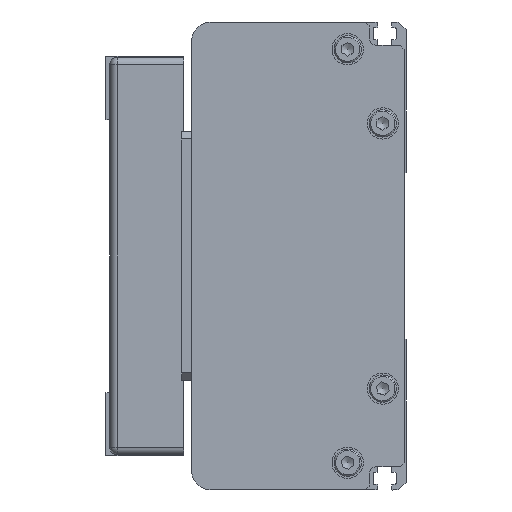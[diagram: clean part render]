
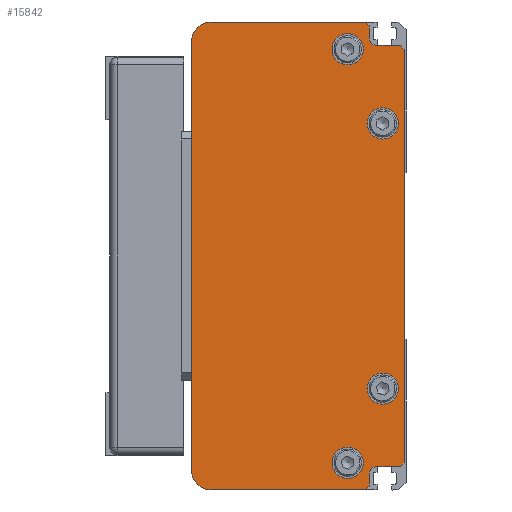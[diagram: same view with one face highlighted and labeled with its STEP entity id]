
A CAD part, left-side view. The second image highlights one B-rep face of the part: STEP entity #15842.
In plain terms, the highlighted planar face has unit normal (-1, 0, 0) as drawn and (0, 0, -1) by its records, which use the part's own axes.
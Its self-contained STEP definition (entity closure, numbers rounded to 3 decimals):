
#828=FACE_BOUND('',#2607,.T.);
#829=FACE_BOUND('',#2608,.T.);
#830=FACE_BOUND('',#2609,.T.);
#831=FACE_BOUND('',#2610,.T.);
#1144=CIRCLE('',#16974,5.);
#1145=CIRCLE('',#16976,5.);
#1146=CIRCLE('',#16977,2.);
#1147=CIRCLE('',#16978,2.);
#1148=CIRCLE('',#16979,4.);
#1149=CIRCLE('',#16980,4.);
#1150=CIRCLE('',#16981,4.);
#1151=CIRCLE('',#16982,4.);
#1576=FACE_OUTER_BOUND('',#2606,.T.);
#2606=EDGE_LOOP('',(#10908,#10909,#10910,#10911,#10912,#10913,#10914,#10915,
#10916,#10917,#10918,#10919,#10920,#10921,#10922,#10923));
#2607=EDGE_LOOP('',(#10924));
#2608=EDGE_LOOP('',(#10925));
#2609=EDGE_LOOP('',(#10926));
#2610=EDGE_LOOP('',(#10927));
#3849=LINE('',#22665,#5374);
#3850=LINE('',#22667,#5375);
#3851=LINE('',#22670,#5376);
#3852=LINE('',#22672,#5377);
#3853=LINE('',#22674,#5378);
#3854=LINE('',#22676,#5379);
#3855=LINE('',#22680,#5380);
#3856=LINE('',#22682,#5381);
#3857=LINE('',#22684,#5382);
#3858=LINE('',#22686,#5383);
#3859=LINE('',#22688,#5384);
#3860=LINE('',#22691,#5385);
#5374=VECTOR('',#18502,1.414);
#5375=VECTOR('',#18503,39.5);
#5376=VECTOR('',#18506,110.);
#5377=VECTOR('',#18507,39.5);
#5378=VECTOR('',#18508,1.414);
#5379=VECTOR('',#18509,3.);
#5380=VECTOR('',#18512,6.);
#5381=VECTOR('',#18513,1.414);
#5382=VECTOR('',#18514,106.);
#5383=VECTOR('',#18515,1.414);
#5384=VECTOR('',#18516,6.);
#5385=VECTOR('',#18519,3.);
#6933=VERTEX_POINT('',#22657);
#6934=VERTEX_POINT('',#22659);
#6935=VERTEX_POINT('',#22663);
#6936=VERTEX_POINT('',#22664);
#6937=VERTEX_POINT('',#22666);
#6938=VERTEX_POINT('',#22668);
#6939=VERTEX_POINT('',#22671);
#6940=VERTEX_POINT('',#22673);
#6941=VERTEX_POINT('',#22675);
#6942=VERTEX_POINT('',#22677);
#6943=VERTEX_POINT('',#22679);
#6944=VERTEX_POINT('',#22681);
#6945=VERTEX_POINT('',#22683);
#6946=VERTEX_POINT('',#22685);
#6947=VERTEX_POINT('',#22687);
#6948=VERTEX_POINT('',#22689);
#6949=VERTEX_POINT('',#22692);
#6950=VERTEX_POINT('',#22694);
#6951=VERTEX_POINT('',#22696);
#6952=VERTEX_POINT('',#22698);
#8519=EDGE_CURVE('',#6933,#6934,#1144,.T.);
#8521=EDGE_CURVE('',#6935,#6936,#3849,.T.);
#8522=EDGE_CURVE('',#6935,#6937,#3850,.T.);
#8523=EDGE_CURVE('',#6938,#6937,#1145,.T.);
#8524=EDGE_CURVE('',#6938,#6934,#3851,.T.);
#8525=EDGE_CURVE('',#6933,#6939,#3852,.T.);
#8526=EDGE_CURVE('',#6940,#6939,#3853,.T.);
#8527=EDGE_CURVE('',#6940,#6941,#3854,.T.);
#8528=EDGE_CURVE('',#6941,#6942,#1146,.T.);
#8529=EDGE_CURVE('',#6942,#6943,#3855,.T.);
#8530=EDGE_CURVE('',#6944,#6943,#3856,.T.);
#8531=EDGE_CURVE('',#6944,#6945,#3857,.T.);
#8532=EDGE_CURVE('',#6946,#6945,#3858,.T.);
#8533=EDGE_CURVE('',#6946,#6947,#3859,.T.);
#8534=EDGE_CURVE('',#6947,#6948,#1147,.T.);
#8535=EDGE_CURVE('',#6948,#6936,#3860,.T.);
#8536=EDGE_CURVE('',#6949,#6949,#1148,.T.);
#8537=EDGE_CURVE('',#6950,#6950,#1149,.T.);
#8538=EDGE_CURVE('',#6951,#6951,#1150,.T.);
#8539=EDGE_CURVE('',#6952,#6952,#1151,.T.);
#10908=ORIENTED_EDGE('',*,*,#8521,.F.);
#10909=ORIENTED_EDGE('',*,*,#8522,.T.);
#10910=ORIENTED_EDGE('',*,*,#8523,.F.);
#10911=ORIENTED_EDGE('',*,*,#8524,.T.);
#10912=ORIENTED_EDGE('',*,*,#8519,.F.);
#10913=ORIENTED_EDGE('',*,*,#8525,.T.);
#10914=ORIENTED_EDGE('',*,*,#8526,.F.);
#10915=ORIENTED_EDGE('',*,*,#8527,.T.);
#10916=ORIENTED_EDGE('',*,*,#8528,.T.);
#10917=ORIENTED_EDGE('',*,*,#8529,.T.);
#10918=ORIENTED_EDGE('',*,*,#8530,.F.);
#10919=ORIENTED_EDGE('',*,*,#8531,.T.);
#10920=ORIENTED_EDGE('',*,*,#8532,.F.);
#10921=ORIENTED_EDGE('',*,*,#8533,.T.);
#10922=ORIENTED_EDGE('',*,*,#8534,.T.);
#10923=ORIENTED_EDGE('',*,*,#8535,.T.);
#10924=ORIENTED_EDGE('',*,*,#8536,.T.);
#10925=ORIENTED_EDGE('',*,*,#8537,.T.);
#10926=ORIENTED_EDGE('',*,*,#8538,.T.);
#10927=ORIENTED_EDGE('',*,*,#8539,.T.);
#15218=PLANE('',#16975);
#15842=ADVANCED_FACE('',(#1576,#828,#829,#830,#831),#15218,.F.);
#16974=AXIS2_PLACEMENT_3D('',#22660,#18497,#18498);
#16975=AXIS2_PLACEMENT_3D('',#22662,#18500,#18501);
#16976=AXIS2_PLACEMENT_3D('',#22669,#18504,#18505);
#16977=AXIS2_PLACEMENT_3D('',#22678,#18510,#18511);
#16978=AXIS2_PLACEMENT_3D('',#22690,#18517,#18518);
#16979=AXIS2_PLACEMENT_3D('',#22693,#18520,#18521);
#16980=AXIS2_PLACEMENT_3D('',#22695,#18522,#18523);
#16981=AXIS2_PLACEMENT_3D('',#22697,#18524,#18525);
#16982=AXIS2_PLACEMENT_3D('',#22699,#18526,#18527);
#18497=DIRECTION('center_axis',(0.,0.,
1.));
#18498=DIRECTION('ref_axis',(0.707,0.707,0.));
#18500=DIRECTION('center_axis',(0.,0.,
1.));
#18501=DIRECTION('ref_axis',(-1.,-0.018,0.));
#18502=DIRECTION('',(0.707,-0.707,0.));
#18503=DIRECTION('',(0.,1.,0.));
#18504=DIRECTION('center_axis',(0.,0.,
1.));
#18505=DIRECTION('ref_axis',(-0.707,0.707,0.));
#18506=DIRECTION('',(1.,0.,0.));
#18507=DIRECTION('',(0.,-1.,0.));
#18508=DIRECTION('',(0.707,0.707,0.));
#18509=DIRECTION('',(-1.,0.,0.));
#18510=DIRECTION('center_axis',(0.,0.,
1.));
#18511=DIRECTION('ref_axis',(0.,-1.,0.));
#18512=DIRECTION('',(0.,-1.,0.));
#18513=DIRECTION('',(0.707,0.707,0.));
#18514=DIRECTION('',(-1.,0.,0.));
#18515=DIRECTION('',(0.707,-0.707,0.));
#18516=DIRECTION('',(0.,1.,0.));
#18517=DIRECTION('center_axis',(0.,0.,
1.));
#18518=DIRECTION('ref_axis',(1.,0.,0.));
#18519=DIRECTION('',(-1.,0.,0.));
#18520=DIRECTION('center_axis',(0.,0.,
1.));
#18521=DIRECTION('ref_axis',(0.,1.,0.));
#18522=DIRECTION('center_axis',(0.,0.,
1.));
#18523=DIRECTION('ref_axis',(0.,1.,0.));
#18524=DIRECTION('center_axis',(0.,0.,
1.));
#18525=DIRECTION('ref_axis',(0.,1.,0.));
#18526=DIRECTION('center_axis',(0.,0.,
1.));
#18527=DIRECTION('ref_axis',(0.,1.,0.));
#22657=CARTESIAN_POINT('',(124.75,50.75,-742.5));
#22659=CARTESIAN_POINT('',(119.75,55.75,-742.5));
#22660=CARTESIAN_POINT('Origin',(119.75,50.75,-742.5));
#22662=CARTESIAN_POINT('Origin',(64.75,28.5,-742.5));
#22663=CARTESIAN_POINT('',(4.75,11.25,-742.5));
#22664=CARTESIAN_POINT('',(5.75,10.25,-742.5));
#22665=CARTESIAN_POINT('',(4.75,11.25,-742.5));
#22666=CARTESIAN_POINT('',(4.75,50.75,-742.5));
#22667=CARTESIAN_POINT('',(4.75,11.25,-742.5));
#22668=CARTESIAN_POINT('',(9.75,55.75,-742.5));
#22669=CARTESIAN_POINT('Origin',(9.75,50.75,-742.5));
#22670=CARTESIAN_POINT('',(9.75,55.75,-742.5));
#22671=CARTESIAN_POINT('',(124.75,11.25,-742.5));
#22672=CARTESIAN_POINT('',(124.75,50.75,-742.5));
#22673=CARTESIAN_POINT('',(123.75,10.25,-742.5));
#22674=CARTESIAN_POINT('',(123.75,10.25,-742.5));
#22675=CARTESIAN_POINT('',(120.75,10.25,-742.5));
#22676=CARTESIAN_POINT('',(123.75,10.25,-742.5));
#22677=CARTESIAN_POINT('',(118.75,8.25,-742.5));
#22678=CARTESIAN_POINT('Origin',(120.75,8.25,-742.5));
#22679=CARTESIAN_POINT('',(118.75,2.25,-742.5));
#22680=CARTESIAN_POINT('',(118.75,8.25,-742.5));
#22681=CARTESIAN_POINT('',(117.75,1.25,-742.5));
#22682=CARTESIAN_POINT('',(117.75,1.25,-742.5));
#22683=CARTESIAN_POINT('',(11.75,1.25,-742.5));
#22684=CARTESIAN_POINT('',(117.75,1.25,-742.5));
#22685=CARTESIAN_POINT('',(10.75,2.25,-742.5));
#22686=CARTESIAN_POINT('',(10.75,2.25,-742.5));
#22687=CARTESIAN_POINT('',(10.75,8.25,-742.5));
#22688=CARTESIAN_POINT('',(10.75,2.25,-742.5));
#22689=CARTESIAN_POINT('',(8.75,10.25,-742.5));
#22690=CARTESIAN_POINT('Origin',(8.75,8.25,-742.5));
#22691=CARTESIAN_POINT('',(8.75,10.25,-742.5));
#22692=CARTESIAN_POINT('',(30.75,10.75,-742.5));
#22693=CARTESIAN_POINT('Origin',(30.75,6.75,-742.5));
#22694=CARTESIAN_POINT('',(98.75,10.75,-742.5));
#22695=CARTESIAN_POINT('Origin',(98.75,6.75,-742.5));
#22696=CARTESIAN_POINT('',(11.75,19.75,-742.5));
#22697=CARTESIAN_POINT('Origin',(11.75,15.75,-742.5));
#22698=CARTESIAN_POINT('',(117.75,19.75,-742.5));
#22699=CARTESIAN_POINT('Origin',(117.75,15.75,-742.5));
